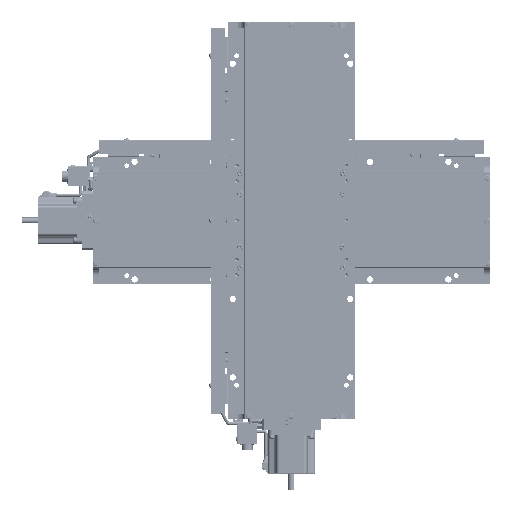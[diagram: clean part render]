
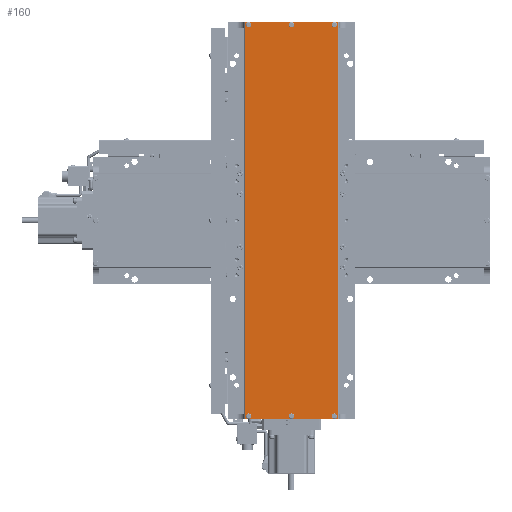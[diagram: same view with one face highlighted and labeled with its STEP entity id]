
A CAD part, top view. The second image highlights one B-rep face of the part: STEP entity #160.
In plain terms, the highlighted planar face has unit normal (0, 0, 1).
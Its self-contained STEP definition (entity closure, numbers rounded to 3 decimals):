
#160=ADVANCED_FACE('',(#5485,#5486,#5487,#5488,#5489,#5490,#5491),#5484,.T.);
#5484=PLANE('',#58310);
#5485=FACE_OUTER_BOUND('',#58311,.T.);
#5486=FACE_BOUND('',#58312,.T.);
#5487=FACE_BOUND('',#58313,.T.);
#5488=FACE_BOUND('',#58314,.T.);
#5489=FACE_BOUND('',#58315,.T.);
#5490=FACE_BOUND('',#58316,.T.);
#5491=FACE_BOUND('',#58317,.T.);
#58307=CARTESIAN_POINT('',(-69.5,-263.,128.5));
#58308=DIRECTION('',(0.,0.,1.));
#58309=DIRECTION('',(1.,0.,0.));
#58310=AXIS2_PLACEMENT_3D('',#58307,#58308,#58309);
#58311=EDGE_LOOP('',(#91094,#91095,#91096,#91097,#91098,#91099));
#58312=EDGE_LOOP('',(#91100,#91101));
#58313=EDGE_LOOP('',(#91102,#91103));
#58314=EDGE_LOOP('',(#91104,#91105));
#58315=EDGE_LOOP('',(#91106,#91107));
#58316=EDGE_LOOP('',(#91108,#91109));
#58317=EDGE_LOOP('',(#91110,#91111));
#91094=ORIENTED_EDGE('',*,*,#116742,.T.);
#91095=ORIENTED_EDGE('',*,*,#116743,.T.);
#91096=ORIENTED_EDGE('',*,*,#116694,.F.);
#91097=ORIENTED_EDGE('',*,*,#116744,.F.);
#91098=ORIENTED_EDGE('',*,*,#116728,.F.);
#91099=ORIENTED_EDGE('',*,*,#116745,.T.);
#91100=ORIENTED_EDGE('',*,*,#116746,.F.);
#91101=ORIENTED_EDGE('',*,*,#116747,.F.);
#91102=ORIENTED_EDGE('',*,*,#116748,.F.);
#91103=ORIENTED_EDGE('',*,*,#116749,.F.);
#91104=ORIENTED_EDGE('',*,*,#116750,.F.);
#91105=ORIENTED_EDGE('',*,*,#116751,.F.);
#91106=ORIENTED_EDGE('',*,*,#116752,.F.);
#91107=ORIENTED_EDGE('',*,*,#116753,.F.);
#91108=ORIENTED_EDGE('',*,*,#116754,.F.);
#91109=ORIENTED_EDGE('',*,*,#116755,.F.);
#91110=ORIENTED_EDGE('',*,*,#116756,.F.);
#91111=ORIENTED_EDGE('',*,*,#116757,.F.);
#116694=EDGE_CURVE('',#129852,#129859,#129860,.T.);
#116728=EDGE_CURVE('',#130090,#130097,#130098,.T.);
#116742=EDGE_CURVE('',#130194,#130195,#130196,.T.);
#116743=EDGE_CURVE('',#130195,#129859,#130202,.T.);
#116744=EDGE_CURVE('',#130097,#129852,#130208,.T.);
#116745=EDGE_CURVE('',#130090,#130194,#130214,.T.);
#116746=EDGE_CURVE('',#130220,#130221,#130222,.T.);
#116747=EDGE_CURVE('',#130221,#130220,#130228,.T.);
#116748=EDGE_CURVE('',#130234,#130235,#130236,.T.);
#116749=EDGE_CURVE('',#130235,#130234,#130242,.T.);
#116750=EDGE_CURVE('',#130248,#130249,#130250,.T.);
#116751=EDGE_CURVE('',#130249,#130248,#130256,.T.);
#116752=EDGE_CURVE('',#130262,#130263,#130264,.T.);
#116753=EDGE_CURVE('',#130263,#130262,#130270,.T.);
#116754=EDGE_CURVE('',#130276,#130277,#130278,.T.);
#116755=EDGE_CURVE('',#130277,#130276,#130284,.T.);
#116756=EDGE_CURVE('',#130290,#130291,#130292,.T.);
#116757=EDGE_CURVE('',#130291,#130290,#130298,.T.);
#129852=VERTEX_POINT('',#214757);
#129859=VERTEX_POINT('',#214761);
#129860=LINE('',#214762,#214763);
#130090=VERTEX_POINT('',#214898);
#130097=VERTEX_POINT('',#214903);
#130098=LINE('',#214904,#214905);
#130194=VERTEX_POINT('',#214964);
#130195=VERTEX_POINT('',#214965);
#130196=LINE('',#214966,#214967);
#130202=LINE('',#214969,#214970);
#130208=LINE('',#214972,#214973);
#130214=LINE('',#214975,#214976);
#130220=VERTEX_POINT('',#214978);
#130221=VERTEX_POINT('',#214979);
#130222=CIRCLE('',#214983,3.495);
#130228=CIRCLE('',#214987,3.495);
#130234=VERTEX_POINT('',#214988);
#130235=VERTEX_POINT('',#214989);
#130236=CIRCLE('',#214993,3.495);
#130242=CIRCLE('',#214997,3.495);
#130248=VERTEX_POINT('',#214998);
#130249=VERTEX_POINT('',#214999);
#130250=CIRCLE('',#215003,3.495);
#130256=CIRCLE('',#215007,3.495);
#130262=VERTEX_POINT('',#215008);
#130263=VERTEX_POINT('',#215009);
#130264=CIRCLE('',#215013,3.495);
#130270=CIRCLE('',#215017,3.495);
#130276=VERTEX_POINT('',#215018);
#130277=VERTEX_POINT('',#215019);
#130278=CIRCLE('',#215023,3.495);
#130284=CIRCLE('',#215027,3.495);
#130290=VERTEX_POINT('',#215028);
#130291=VERTEX_POINT('',#215029);
#130292=CIRCLE('',#215033,3.495);
#130298=CIRCLE('',#215037,3.495);
#214757=CARTESIAN_POINT('',(-35.,-253.,128.5));
#214761=CARTESIAN_POINT('',(-59.5,-253.,128.5));
#214762=CARTESIAN_POINT('',(-35.,-253.,128.5));
#214763=VECTOR('',#214764,24.5);
#214764=DIRECTION('',(-1.,0.,0.));
#214898=CARTESIAN_POINT('',(59.5,-253.,128.5));
#214903=CARTESIAN_POINT('',(35.,-253.,128.5));
#214904=CARTESIAN_POINT('',(59.5,-253.,128.5));
#214905=VECTOR('',#214906,24.5);
#214906=DIRECTION('',(-1.,0.,0.));
#214964=CARTESIAN_POINT('',(59.5,253.,128.5));
#214965=CARTESIAN_POINT('',(-59.5,253.,128.5));
#214966=CARTESIAN_POINT('',(59.5,253.,128.5));
#214967=VECTOR('',#214968,119.);
#214968=DIRECTION('',(-1.,0.,0.));
#214969=CARTESIAN_POINT('',(-59.5,253.,128.5));
#214970=VECTOR('',#214971,506.);
#214971=DIRECTION('',(0.,-1.,0.));
#214972=CARTESIAN_POINT('',(35.,-253.,128.5));
#214973=VECTOR('',#214974,70.);
#214974=DIRECTION('',(-1.,0.,0.));
#214975=CARTESIAN_POINT('',(59.5,-253.,128.5));
#214976=VECTOR('',#214977,506.);
#214977=DIRECTION('',(0.,1.,0.));
#214978=CARTESIAN_POINT('',(-3.495,249.5,128.5));
#214979=CARTESIAN_POINT('',(3.495,249.5,128.5));
#214980=CARTESIAN_POINT('',(0.,249.5,128.5));
#214981=DIRECTION('',(0.,0.,1.));
#214982=DIRECTION('',(1.,0.,0.));
#214983=AXIS2_PLACEMENT_3D('',#214980,#214981,#214982);
#214984=CARTESIAN_POINT('',(0.,249.5,128.5));
#214985=DIRECTION('',(0.,0.,1.));
#214986=DIRECTION('',(1.,0.,0.));
#214987=AXIS2_PLACEMENT_3D('',#214984,#214985,#214986);
#214988=CARTESIAN_POINT('',(51.005,249.5,128.5));
#214989=CARTESIAN_POINT('',(57.995,249.5,128.5));
#214990=CARTESIAN_POINT('',(54.5,249.5,128.5));
#214991=DIRECTION('',(0.,0.,1.));
#214992=DIRECTION('',(1.,0.,0.));
#214993=AXIS2_PLACEMENT_3D('',#214990,#214991,#214992);
#214994=CARTESIAN_POINT('',(54.5,249.5,128.5));
#214995=DIRECTION('',(0.,0.,1.));
#214996=DIRECTION('',(1.,0.,0.));
#214997=AXIS2_PLACEMENT_3D('',#214994,#214995,#214996);
#214998=CARTESIAN_POINT('',(-57.995,-249.5,128.5));
#214999=CARTESIAN_POINT('',(-51.005,-249.5,128.5));
#215000=CARTESIAN_POINT('',(-54.5,-249.5,128.5));
#215001=DIRECTION('',(0.,0.,1.));
#215002=DIRECTION('',(1.,0.,0.));
#215003=AXIS2_PLACEMENT_3D('',#215000,#215001,#215002);
#215004=CARTESIAN_POINT('',(-54.5,-249.5,128.5));
#215005=DIRECTION('',(0.,0.,1.));
#215006=DIRECTION('',(1.,0.,0.));
#215007=AXIS2_PLACEMENT_3D('',#215004,#215005,#215006);
#215008=CARTESIAN_POINT('',(-3.495,-249.5,128.5));
#215009=CARTESIAN_POINT('',(3.495,-249.5,128.5));
#215010=CARTESIAN_POINT('',(0.,-249.5,128.5));
#215011=DIRECTION('',(0.,0.,1.));
#215012=DIRECTION('',(1.,0.,0.));
#215013=AXIS2_PLACEMENT_3D('',#215010,#215011,#215012);
#215014=CARTESIAN_POINT('',(0.,-249.5,128.5));
#215015=DIRECTION('',(0.,0.,1.));
#215016=DIRECTION('',(1.,0.,0.));
#215017=AXIS2_PLACEMENT_3D('',#215014,#215015,#215016);
#215018=CARTESIAN_POINT('',(51.005,-249.5,128.5));
#215019=CARTESIAN_POINT('',(57.995,-249.5,128.5));
#215020=CARTESIAN_POINT('',(54.5,-249.5,128.5));
#215021=DIRECTION('',(0.,0.,1.));
#215022=DIRECTION('',(1.,0.,0.));
#215023=AXIS2_PLACEMENT_3D('',#215020,#215021,#215022);
#215024=CARTESIAN_POINT('',(54.5,-249.5,128.5));
#215025=DIRECTION('',(0.,0.,1.));
#215026=DIRECTION('',(1.,0.,0.));
#215027=AXIS2_PLACEMENT_3D('',#215024,#215025,#215026);
#215028=CARTESIAN_POINT('',(-57.995,249.5,128.5));
#215029=CARTESIAN_POINT('',(-51.005,249.5,128.5));
#215030=CARTESIAN_POINT('',(-54.5,249.5,128.5));
#215031=DIRECTION('',(0.,0.,1.));
#215032=DIRECTION('',(1.,0.,0.));
#215033=AXIS2_PLACEMENT_3D('',#215030,#215031,#215032);
#215034=CARTESIAN_POINT('',(-54.5,249.5,128.5));
#215035=DIRECTION('',(0.,0.,1.));
#215036=DIRECTION('',(1.,0.,0.));
#215037=AXIS2_PLACEMENT_3D('',#215034,#215035,#215036);
